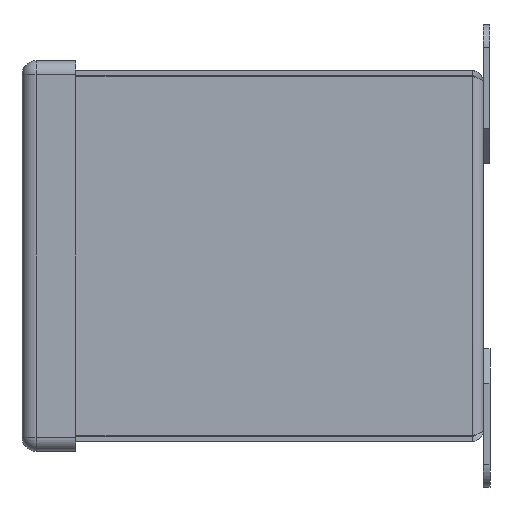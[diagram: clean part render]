
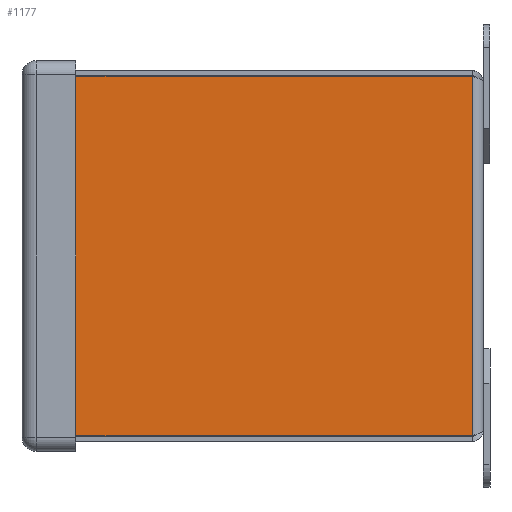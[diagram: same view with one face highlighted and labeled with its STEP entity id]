
A CAD part, left-side view. The second image highlights one B-rep face of the part: STEP entity #1177.
In plain terms, the highlighted planar face has unit normal (-1, 0, 0).
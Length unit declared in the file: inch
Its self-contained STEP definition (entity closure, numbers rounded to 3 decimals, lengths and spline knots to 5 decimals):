
#1055 = CARTESIAN_POINT ( 'NONE',  ( -2., 0., 2. ) ) ;
#1060 = PLANE ( 'NONE',  #9779 ) ;
#1065 = DIRECTION ( 'NONE',  ( -1., 0., 0. ) ) ;
#1066 = DIRECTION ( 'NONE',  ( 0., -1., 0. ) ) ;
#1177 = ADVANCED_FACE ( 'NONE', ( #3611 ), #1060, .T. ) ;
#2141 = EDGE_LOOP ( 'NONE', ( #5898, #6122, #6108, #5976 ) ) ;
#3321 = VECTOR ( 'NONE', #10839, 39.37008 ) ;
#3327 = LINE ( 'NONE', #10833, #3321 ) ;
#3611 = FACE_OUTER_BOUND ( 'NONE', #2141, .T. ) ;
#3705 = CARTESIAN_POINT ( 'NONE',  ( -2., 0.06, 2. ) ) ;
#3706 = DIRECTION ( 'NONE',  ( 0., 0., 1. ) ) ;
#4409 = CARTESIAN_POINT ( 'NONE',  ( -2., 4.55, 1.93864 ) ) ;
#4410 = CARTESIAN_POINT ( 'NONE',  ( -2., 0.06, 1.93864 ) ) ;
#4411 = CARTESIAN_POINT ( 'NONE',  ( -2., 4.55, -1.93864 ) ) ;
#4412 = CARTESIAN_POINT ( 'NONE',  ( -2., 0.06, -1.93864 ) ) ;
#5898 = ORIENTED_EDGE ( 'NONE', *, *, #6742, .F. ) ;
#5976 = ORIENTED_EDGE ( 'NONE', *, *, #6924, .T. ) ;
#6108 = ORIENTED_EDGE ( 'NONE', *, *, #6565, .T. ) ;
#6122 = ORIENTED_EDGE ( 'NONE', *, *, #6829, .T. ) ;
#6565 = EDGE_CURVE ( 'NONE', #10226, #10227, #3327, .T. ) ;
#6742 = EDGE_CURVE ( 'NONE', #10224, #10225, #8926, .T. ) ;
#6829 = EDGE_CURVE ( 'NONE', #10224, #10226, #8774, .T. ) ;
#6924 = EDGE_CURVE ( 'NONE', #10227, #10225, #8625, .T. ) ;
#7426 = CARTESIAN_POINT ( 'NONE',  ( -2., 0., 1.93864 ) ) ;
#7430 = DIRECTION ( 'NONE',  ( 0., -1., 0. ) ) ;
#8624 = VECTOR ( 'NONE', #3706, 39.37008 ) ;
#8625 = LINE ( 'NONE', #3705, #8624 ) ;
#8773 = VECTOR ( 'NONE', #10373, 39.37008 ) ;
#8774 = LINE ( 'NONE', #10372, #8773 ) ;
#8908 = VECTOR ( 'NONE', #7430, 39.37008 ) ;
#8926 = LINE ( 'NONE', #7426, #8908 ) ;
#9779 = AXIS2_PLACEMENT_3D ( 'NONE', #1055, #1065, #1066 ) ;
#10224 = VERTEX_POINT ( 'NONE', #4409 ) ;
#10225 = VERTEX_POINT ( 'NONE', #4410 ) ;
#10226 = VERTEX_POINT ( 'NONE', #4411 ) ;
#10227 = VERTEX_POINT ( 'NONE', #4412 ) ;
#10372 = CARTESIAN_POINT ( 'NONE',  ( -2., 4.55, 1.93864 ) ) ;
#10373 = DIRECTION ( 'NONE',  ( 0., 0., -1. ) ) ;
#10833 = CARTESIAN_POINT ( 'NONE',  ( -2., 0., -1.93864 ) ) ;
#10839 = DIRECTION ( 'NONE',  ( 0., -1., 0. ) ) ;
